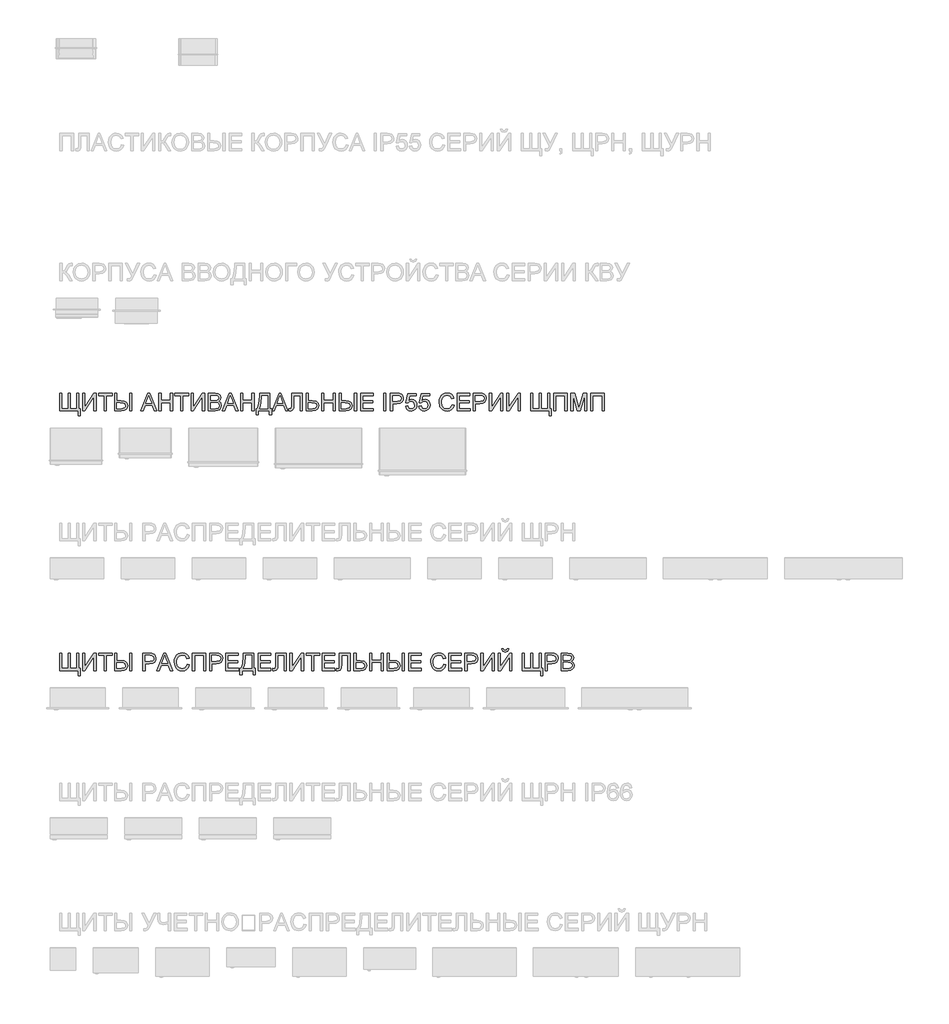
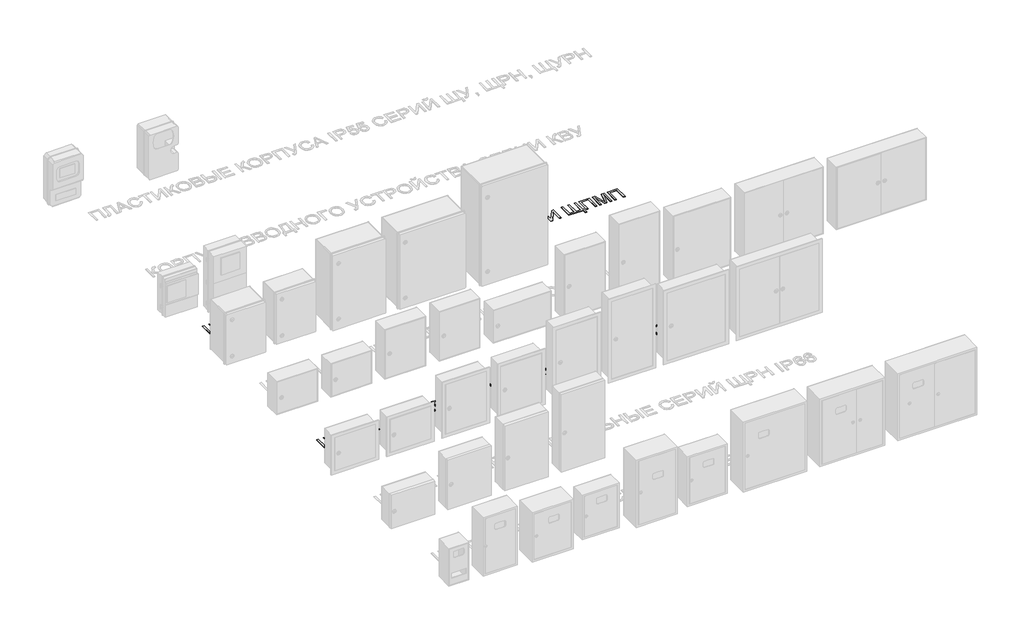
# One storey, part 13 of 25: 2 proxies.
"""IFC4 building model written with IfcOpenShell, lengths in millimetres."""

import ifcopenshell
import ifcopenshell.guid

model = None  # the IFC model being written
_history = None  # IfcOwnerHistory: only IFC2X3 demands one
_inside = {}  # id of a spatial element -> (the spatial element, [elements in it])
_under = {}  # id of a project, library or spatial element -> (it, [spatial elements below it])
_declared = {}  # id of a project -> (the project, [libraries it declares])
_typed = {}  # id of a type object -> (the type object, [elements of that type])
_made_of = {}  # id of a material, layer set ... -> (it, [elements and type objects made of it])


def new_model(schema):
    """Start an empty IFC model of exactly this schema.

    Asked for "IFC4X3", IfcOpenShell would pick the latest addendum, in which some entities
    have other attributes; the version numbers below select the first issue.
    IFC2X3 requires an IfcOwnerHistory on every rooted entity: one is made here for all.
    """
    global model, _history
    if schema == "IFC4X3":
        model = ifcopenshell.file(schema_version=(4, 3, 0, 0))
    else:
        model = ifcopenshell.file(schema=schema)
    _inside.clear()
    _under.clear()
    _declared.clear()
    _typed.clear()
    _made_of.clear()
    _history = None
    if model.schema == "IFC2X3":
        org = make("IfcOrganization", Name="unknown")
        user = make(
            "IfcPersonAndOrganization",
            ThePerson=make("IfcPerson", FamilyName="unknown"),
            TheOrganization=org,
        )
        app = make(
            "IfcApplication",
            ApplicationDeveloper=org,
            Version="unknown",
            ApplicationFullName="unknown",
            ApplicationIdentifier="unknown",
        )
        _history = make(
            "IfcOwnerHistory",
            OwningUser=user,
            OwningApplication=app,
            ChangeAction="ADDED",
            CreationDate=0,
        )
    return model


def make(cls, **values):
    """One entity of the class cls with the attributes given. An attribute that is None is left unset."""
    return model.create_entity(
        cls, **{name: value for name, value in values.items() if value is not None}
    )


def rooted(cls, **values):
    """An entity with a GlobalId (a new one), such as an element, a storey or a relation."""
    return make(cls, GlobalId=ifcopenshell.guid.new(), OwnerHistory=_history, **values)


def si_unit(unit_type, name, prefix=None):
    """IfcSIUnit, for example si_unit("LENGTHUNIT", "METRE", prefix="MILLI")."""
    return make("IfcSIUnit", UnitType=unit_type, Prefix=prefix, Name=name)


def assignment(units):
    """IfcUnitAssignment: the units of a project."""
    return None if units is None else make("IfcUnitAssignment", Units=units)


def point(xyz):
    """IfcCartesianPoint."""
    return None if xyz is None else make("IfcCartesianPoint", Coordinates=xyz)


def direction(xyz):
    """IfcDirection."""
    return None if xyz is None else make("IfcDirection", DirectionRatios=xyz)


def frame(location, z_axis=None, x_axis=None):
    """IfcAxis2Placement3D, a coordinate frame: its origin and axes. An axis left out is left unset."""
    return make(
        "IfcAxis2Placement3D",
        Location=point(location),
        Axis=direction(z_axis),
        RefDirection=direction(x_axis),
    )


def origin():
    """The frame at (0, 0, 0) with its axes left unset."""
    return frame((0.0, 0.0, 0.0))


def place(relative_to, where):
    """IfcLocalPlacement: puts the frame where relative to a parent placement (None: the world)."""
    return make(
        "IfcLocalPlacement", PlacementRelTo=relative_to, RelativePlacement=where
    )


def context(
    kind, dimensions, precision=None, world=None, true_north=None, identifier=None
):
    """IfcGeometricRepresentationContext, for example the 3D "Model" context."""
    return make(
        "IfcGeometricRepresentationContext",
        ContextIdentifier=identifier,
        ContextType=kind,
        CoordinateSpaceDimension=dimensions,
        Precision=precision,
        WorldCoordinateSystem=world,
        TrueNorth=true_north,
    )


def project(units=None, contexts=None):
    """IfcProject with its units and contexts."""
    return rooted(
        "IfcProject",
        Name="project",
        RepresentationContexts=contexts,
        UnitsInContext=assignment(units),
    )


def spatial(cls, under=None, at=None, **own):
    """A site, building, storey or space (cls), placed at a placement, below another one or the project."""
    s = rooted(cls, ObjectPlacement=at, **own)
    if under is not None:
        _under.setdefault(under.id(), (under, []))[1].append(s)
    return s


def polyline(points):
    """IfcPolyline through the points."""
    return make("IfcPolyline", Points=[point(p) for p in points])


def outline(outer, holes=None, kind="AREA"):
    """IfcArbitraryClosedProfileDef: a profile drawn as a closed curve; with holes, ...WithVoids."""
    if holes is None:
        return make("IfcArbitraryClosedProfileDef", ProfileType=kind, OuterCurve=outer)
    return make(
        "IfcArbitraryProfileDefWithVoids",
        ProfileType=kind,
        OuterCurve=outer,
        InnerCurves=holes,
    )


def extrude(swept, where, along, depth):
    """IfcExtrudedAreaSolid: the profile swept, set in the frame where, extruded along a direction by depth."""
    return make(
        "IfcExtrudedAreaSolid",
        SweptArea=swept,
        Position=where,
        ExtrudedDirection=direction(along),
        Depth=depth,
    )


def shape(context_of_items, identifier, shape_type, items):
    """IfcShapeRepresentation: the items that make up one representation, for example the "Body"."""
    return make(
        "IfcShapeRepresentation",
        ContextOfItems=context_of_items,
        RepresentationIdentifier=identifier,
        RepresentationType=shape_type,
        Items=items,
    )


def made_of(thing, what):
    """Note that an element or type object is made of a material, layer set ...; save() writes the relation."""
    if what is not None:
        _made_of.setdefault(what.id(), (what, []))[1].append(thing)
    return thing


def element(
    cls,
    number,
    at=None,
    inside=None,
    cuts=None,
    type_object=None,
    material=None,
    context=None,
    identifier="Body",
    shape_type=None,
    held_by="IfcProductDefinitionShape",
    body=None,
    shapes=None,
    **own,
):
    """One element of the class cls, such as IfcWall. Its Tag is "e" and its number.

    at: its placement. inside: the storey or other place that contains it. cuts: it is an
    opening in that element (IfcRelVoidsElement). A single representation is given by context,
    identifier, shape_type and body (its items); several are given by shapes. held_by: the class
    of the entity that holds the representations. save() writes the other relations.
    """
    e = rooted(cls, Tag="e%d" % number, ObjectPlacement=at, **own)
    if body is not None:
        shapes = [shape(context, identifier, shape_type, body)]
    if shapes is not None:
        e.Representation = make(held_by, Representations=shapes)
    if inside is not None:
        _inside.setdefault(inside.id(), (inside, []))[1].append(e)
    if cuts is not None:
        rooted(
            "IfcRelVoidsElement", RelatingBuildingElement=cuts, RelatedOpeningElement=e
        )
    if type_object is not None:
        _typed.setdefault(type_object.id(), (type_object, []))[1].append(e)
    return made_of(e, material)


def aggregate(whole, parts):
    """IfcRelAggregates: a whole, such as a stair, and the parts it consists of."""
    return rooted("IfcRelAggregates", RelatingObject=whole, RelatedObjects=parts)


def save(model, path):
    """Write the relations noted so far, then the file.

    IfcRelAggregates (storeys below a building ...), IfcRelContainedInSpatialStructure (elements
    in a storey), IfcRelDefinesByType, IfcRelAssociatesMaterial and IfcRelDeclares: one each for
    every whole, place, type object, material and project.
    """
    for whole, parts in _under.values():
        aggregate(whole, parts)
    for where, things in _inside.values():
        rooted(
            "IfcRelContainedInSpatialStructure",
            RelatedElements=things,
            RelatingStructure=where,
        )
    for kind, things in _typed.values():
        rooted("IfcRelDefinesByType", RelatedObjects=things, RelatingType=kind)
    for what, things in _made_of.values():
        rooted("IfcRelAssociatesMaterial", RelatedObjects=things, RelatingMaterial=what)
    for by, libraries in _declared.values():
        rooted("IfcRelDeclares", RelatingContext=by, RelatedDefinitions=libraries)
    model.write(path)


model = new_model("IFC4")

# Units and contexts
model_context = context("Model", 3, world=origin())
ifc_project = project(units=[si_unit("LENGTHUNIT", "METRE", prefix="MILLI")], contexts=[model_context])

# Site, building, storey
site = spatial("IfcSite", under=ifc_project)
building = spatial("IfcBuilding", under=site)
storey = spatial("IfcBuildingStorey", under=building, Name="Этаж 01", Elevation=0.0)

# Proxies
placement = place(None, origin())
element("IfcBuildingElementProxy", 1, Name="Надпись на модели 1", ObjectType="Надпись на модели 1", at=placement, inside=storey, context=model_context, shape_type="SweptSolid", body=[
    extrude(outline(polyline([(-19039.6906686, 10636.6915941), (-19027.1336298, 10636.6915941), (-19027.1336298, 10548.7923228), (-18991.0321433, 10548.7923228), (-18991.0321433, 10636.6915941), (-18978.4751046, 10636.6915941), (-18978.4751046, 10548.7923228), (-18942.3736181, 10548.7923228), (-18942.3736181, 10636.6915941), (-18929.8165793, 10636.6915941), (-18929.8165793, 10548.7923228), (-18920.3988003, 10548.7923228), (-18920.3988003, 10507.9819468), (-18932.955839, 10507.9819468), (-18932.955839, 10536.235284), (-19039.6906686, 10536.235284), (-19039.6906686, 10636.6915941)])), frame((0.0, 0.0, 40.0), z_axis=(0.0, 0.0, 1.0), x_axis=(1.0, 0.0, 0.0)), (0.0, 0.0, 1.0), 2.0),
    extrude(outline(polyline([(-18907.8417615, 10636.6915941), (-18895.2847227, 10636.6915941), (-18895.2847227, 10557.1309813), (-18842.7021229, 10636.6915941), (-18829.3602692, 10636.6915941), (-18829.3602692, 10536.235284), (-18841.917308, 10536.235284), (-18841.917308, 10615.5751676), (-18894.3772805, 10536.235284), (-18907.8417615, 10536.235284), (-18907.8417615, 10636.6915941)])), frame((0.0, 0.0, 40.0), z_axis=(0.0, 0.0, 1.0), x_axis=(1.0, 0.0, 0.0)), (0.0, 0.0, 1.0), 2.0),
    extrude(outline(polyline([(-18782.2713738, 10536.235284), (-18782.2713738, 10624.1345554), (-18815.2336006, 10624.1345554), (-18815.2336006, 10636.6915941), (-18736.7521083, 10636.6915941), (-18736.7521083, 10624.1345554), (-18769.714335, 10624.1345554), (-18769.714335, 10536.235284), (-18782.2713738, 10536.235284)])), frame((0.0, 0.0, 40.0), z_axis=(0.0, 0.0, 1.0), x_axis=(1.0, 0.0, 0.0)), (0.0, 0.0, 1.0), 2.0),
    extrude(outline(polyline([(-18722.6254397, 10636.6915941), (-18710.0684009, 10636.6915941), (-18710.0684009, 10594.3115883), (-18685.935342, 10594.3115883), (-18666.2965748, 10592.1165591), (-18654.7634743, 10585.5314713), (-18649.1532739, 10576.1627432), (-18647.2832071, 10565.6167927), (-18649.2605728, 10554.6017926), (-18655.1926699, 10545.0521891), (-18666.4958443, 10538.4395103), (-18684.5864414, 10536.235284), (-18722.6254397, 10536.235284), (-18722.6254397, 10636.6915941)]), holes=[polyline([(-18710.0684009, 10548.7923228), (-18684.7090687, 10548.7923228), (-18665.7386205, 10552.777711), (-18661.3148395, 10557.9617815), (-18659.8402458, 10565.5432163), (-18663.4087012, 10575.5250811), (-18672.6302765, 10580.6509035), (-18691.5026229, 10581.7545495), (-18710.0684009, 10581.7545495), (-18710.0684009, 10548.7923228)])]), frame((0.0, 0.0, 40.0), z_axis=(0.0, 0.0, 1.0), x_axis=(1.0, 0.0, 0.0)), (0.0, 0.0, 1.0), 2.0),
    extrude(outline(polyline([(-18634.7261683, 10636.6915941), (-18622.1691295, 10636.6915941), (-18622.1691295, 10536.235284), (-18634.7261683, 10536.235284), (-18634.7261683, 10636.6915941)])), frame((0.0, 0.0, 40.0), z_axis=(0.0, 0.0, 1.0), x_axis=(1.0, 0.0, 0.0)), (0.0, 0.0, 1.0), 2.0),
    extrude(outline(polyline([(-18571.0825831, 10536.235284), (-18530.9834456, 10636.6915941), (-18520.2903423, 10636.6915941), (-18480.1912048, 10536.235284), (-18493.4594821, 10536.235284), (-18504.9619259, 10567.6278809), (-18546.3363876, 10567.6278809), (-18557.8143058, 10536.235284), (-18571.0825831, 10536.235284)]), holes=[polyline([(-18541.7255999, 10580.1849197), (-18509.5481881, 10580.1849197), (-18518.5980851, 10604.8820643), (-18525.636894, 10624.1345554), (-18531.8908879, 10607.0403053), (-18541.7255999, 10580.1849197)])]), frame((0.0, 0.0, 40.0), z_axis=(0.0, 0.0, 1.0), x_axis=(1.0, 0.0, 0.0)), (0.0, 0.0, 1.0), 2.0),
    extrude(outline(polyline([(-18466.7757748, 10536.235284), (-18466.7757748, 10636.6915941), (-18454.218736, 10636.6915941), (-18454.218736, 10595.8812181), (-18400.8513212, 10595.8812181), (-18400.8513212, 10636.6915941), (-18388.2942824, 10636.6915941), (-18388.2942824, 10536.235284), (-18400.8513212, 10536.235284), (-18400.8513212, 10583.3241794), (-18454.218736, 10583.3241794), (-18454.218736, 10536.235284), (-18466.7757748, 10536.235284)])), frame((0.0, 0.0, 40.0), z_axis=(0.0, 0.0, 1.0), x_axis=(1.0, 0.0, 0.0)), (0.0, 0.0, 1.0), 2.0),
    extrude(outline(polyline([(-18341.2053871, 10536.235284), (-18341.2053871, 10624.1345554), (-18374.1676138, 10624.1345554), (-18374.1676138, 10636.6915941), (-18295.6861215, 10636.6915941), (-18295.6861215, 10624.1345554), (-18328.6483483, 10624.1345554), (-18328.6483483, 10536.235284), (-18341.2053871, 10536.235284)])), frame((0.0, 0.0, 40.0), z_axis=(0.0, 0.0, 1.0), x_axis=(1.0, 0.0, 0.0)), (0.0, 0.0, 1.0), 2.0),
    extrude(outline(polyline([(-18281.5594529, 10636.6915941), (-18269.0024141, 10636.6915941), (-18269.0024141, 10557.1309813), (-18216.4198143, 10636.6915941), (-18203.0779606, 10636.6915941), (-18203.0779606, 10536.235284), (-18215.6349994, 10536.235284), (-18215.6349994, 10615.5751676), (-18268.0949719, 10536.235284), (-18281.5594529, 10536.235284), (-18281.5594529, 10636.6915941)])), frame((0.0, 0.0, 40.0), z_axis=(0.0, 0.0, 1.0), x_axis=(1.0, 0.0, 0.0)), (0.0, 0.0, 1.0), 2.0),
    extrude(outline(polyline([(-18181.1031428, 10536.235284), (-18181.1031428, 10636.6915941), (-18142.7698389, 10636.6915941), (-18123.9955944, 10633.7362754), (-18112.9100836, 10624.6495902), (-18108.9001698, 10611.7982458), (-18112.2724215, 10600.0628102), (-18122.4627527, 10591.1723286), (-18110.089655, 10581.8036005), (-18105.7609102, 10566.1808784), (-18108.7162288, 10552.6796092), (-18116.0370806, 10543.0656264), (-18126.9631758, 10537.9643294), (-18143.0641445, 10536.235284), (-18181.1031428, 10536.235284)]), holes=[polyline([(-18168.546104, 10548.7923228), (-18142.7943643, 10548.7923228), (-18133.4746871, 10549.2828321), (-18125.5897497, 10552.0174216), (-18120.3658254, 10557.5969652), (-18118.3179489, 10566.0582511), (-18120.7214446, 10575.8193867), (-18128.5082802, 10581.6441849), (-18144.0206377, 10583.3241794), (-18168.546104, 10583.3241794), (-18168.546104, 10548.7923228)]), polyline([(-18168.546104, 10595.8812181), (-18145.614793, 10595.8812181), (-18132.2238883, 10596.9603387), (-18124.1672726, 10601.6079145), (-18121.4572086, 10609.7871576), (-18123.9833316, 10617.9786633), (-18131.2183442, 10622.8224429), (-18147.3561011, 10624.1345554), (-18168.546104, 10624.1345554), (-18168.546104, 10595.8812181)])]), frame((0.0, 0.0, 40.0), z_axis=(0.0, 0.0, 1.0), x_axis=(1.0, 0.0, 0.0)), (0.0, 0.0, 1.0), 2.0),
    extrude(outline(polyline([(-18100.1936293, 10536.235284), (-18060.0944918, 10636.6915941), (-18049.4013885, 10636.6915941), (-18009.302251, 10536.235284), (-18022.5705283, 10536.235284), (-18034.072972, 10567.6278809), (-18075.4474337, 10567.6278809), (-18086.925352, 10536.235284), (-18100.1936293, 10536.235284)]), holes=[polyline([(-18070.8366461, 10580.1849197), (-18038.6592342, 10580.1849197), (-18047.7091313, 10604.8820643), (-18054.7479402, 10624.1345554), (-18061.0019341, 10607.0403053), (-18070.8366461, 10580.1849197)])]), frame((0.0, 0.0, 40.0), z_axis=(0.0, 0.0, 1.0), x_axis=(1.0, 0.0, 0.0)), (0.0, 0.0, 1.0), 2.0),
    extrude(outline(polyline([(-17995.8868209, 10536.235284), (-17995.8868209, 10636.6915941), (-17983.3297822, 10636.6915941), (-17983.3297822, 10595.8812181), (-17929.9623674, 10595.8812181), (-17929.9623674, 10636.6915941), (-17917.4053286, 10636.6915941), (-17917.4053286, 10536.235284), (-17929.9623674, 10536.235284), (-17929.9623674, 10583.3241794), (-17983.3297822, 10583.3241794), (-17983.3297822, 10536.235284), (-17995.8868209, 10536.235284)])), frame((0.0, 0.0, 40.0), z_axis=(0.0, 0.0, 1.0), x_axis=(1.0, 0.0, 0.0)), (0.0, 0.0, 1.0), 2.0),
    extrude(outline(polyline([(-17886.0127317, 10636.6915941), (-17826.3667975, 10636.6915941), (-17826.3667975, 10548.7923228), (-17816.9490185, 10548.7923228), (-17816.9490185, 10512.6908363), (-17829.5060572, 10512.6908363), (-17829.5060572, 10536.235284), (-17893.8608809, 10536.235284), (-17893.8608809, 10512.6908363), (-17906.4179197, 10512.6908363), (-17906.4179197, 10548.7923228), (-17898.5697705, 10548.7923228), (-17889.1519914, 10576.2056628), (-17886.0127317, 10622.1479926), (-17886.0127317, 10636.6915941)]), holes=[polyline([(-17838.9238363, 10624.1345554), (-17873.4556929, 10624.1345554), (-17873.4556929, 10619.0823093), (-17876.0063414, 10584.67308), (-17879.7832632, 10564.7890582), (-17886.0127317, 10548.7923228), (-17838.9238363, 10548.7923228), (-17838.9238363, 10624.1345554)])]), frame((0.0, 0.0, 40.0), z_axis=(0.0, 0.0, 1.0), x_axis=(1.0, 0.0, 0.0)), (0.0, 0.0, 1.0), 2.0),
    extrude(outline(polyline([(-17812.9513675, 10536.235284), (-17772.85223, 10636.6915941), (-17762.1591267, 10636.6915941), (-17722.0599892, 10536.235284), (-17735.3282665, 10536.235284), (-17746.8307102, 10567.6278809), (-17788.2051719, 10567.6278809), (-17799.6830902, 10536.235284), (-17812.9513675, 10536.235284)]), holes=[polyline([(-17783.5943842, 10580.1849197), (-17751.4169724, 10580.1849197), (-17760.4668695, 10604.8820643), (-17767.5056783, 10624.1345554), (-17773.7596722, 10607.0403053), (-17783.5943842, 10580.1849197)])]), frame((0.0, 0.0, 40.0), z_axis=(0.0, 0.0, 1.0), x_axis=(1.0, 0.0, 0.0)), (0.0, 0.0, 1.0), 2.0),
    extrude(outline(polyline([(-17700.7964099, 10636.6915941), (-17639.5808459, 10636.6915941), (-17639.5808459, 10536.235284), (-17652.1378846, 10536.235284), (-17652.1378846, 10624.1345554), (-17688.2393711, 10624.1345554), (-17688.2393711, 10572.8763307), (-17689.6986363, 10550.0063333), (-17695.8177402, 10538.7000934), (-17707.639015, 10534.6656541), (-17718.0623382, 10536.235284), (-17716.4927083, 10548.7923228), (-17710.4839691, 10547.2226929), (-17703.2121683, 10550.5949445), (-17700.7964099, 10566.475184), (-17700.7964099, 10636.6915941)])), frame((0.0, 0.0, 40.0), z_axis=(0.0, 0.0, 1.0), x_axis=(1.0, 0.0, 0.0)), (0.0, 0.0, 1.0), 2.0),
    extrude(outline(polyline([(-17617.606028, 10636.6915941), (-17605.0489892, 10636.6915941), (-17605.0489892, 10594.3115883), (-17581.529067, 10594.3115883), (-17557.678051, 10590.375251), (-17547.0585241, 10579.6576222), (-17543.8334253, 10565.6903691), (-17545.7709371, 10554.666172), (-17551.5834726, 10545.0889773), (-17562.6689834, 10538.4487073), (-17580.425421, 10536.235284), (-17617.606028, 10536.235284), (-17617.606028, 10636.6915941)]), holes=[polyline([(-17605.0489892, 10548.7923228), (-17580.4499465, 10548.7923228), (-17568.0768487, 10550.0339245), (-17560.9276753, 10553.7587297), (-17556.390464, 10565.73942), (-17559.6768765, 10575.4269792), (-17568.4447307, 10580.5895899), (-17587.0227715, 10581.7545495), (-17605.0489892, 10581.7545495), (-17605.0489892, 10548.7923228)])]), frame((0.0, 0.0, 40.0), z_axis=(0.0, 0.0, 1.0), x_axis=(1.0, 0.0, 0.0)), (0.0, 0.0, 1.0), 2.0),
    extrude(outline(polyline([(-17526.5674969, 10536.235284), (-17526.5674969, 10636.6915941), (-17514.0104582, 10636.6915941), (-17514.0104582, 10595.8812181), (-17460.6430434, 10595.8812181), (-17460.6430434, 10636.6915941), (-17448.0860046, 10636.6915941), (-17448.0860046, 10536.235284), (-17460.6430434, 10536.235284), (-17460.6430434, 10583.3241794), (-17514.0104582, 10583.3241794), (-17514.0104582, 10536.235284), (-17526.5674969, 10536.235284)])), frame((0.0, 0.0, 40.0), z_axis=(0.0, 0.0, 1.0), x_axis=(1.0, 0.0, 0.0)), (0.0, 0.0, 1.0), 2.0),
    extrude(outline(polyline([(-17426.1111868, 10636.6915941), (-17413.554148, 10636.6915941), (-17413.554148, 10594.3115883), (-17389.4210891, 10594.3115883), (-17369.782322, 10592.1165591), (-17358.2492214, 10585.5314713), (-17352.639021, 10576.1627432), (-17350.7689542, 10565.6167927), (-17352.7463199, 10554.6017926), (-17358.6784171, 10545.0521891), (-17369.9815914, 10538.4395103), (-17388.0721885, 10536.235284), (-17426.1111868, 10536.235284), (-17426.1111868, 10636.6915941)]), holes=[polyline([(-17413.554148, 10548.7923228), (-17388.1948158, 10548.7923228), (-17369.2243676, 10552.777711), (-17364.8005866, 10557.9617815), (-17363.325993, 10565.5432163), (-17366.8944483, 10575.5250811), (-17376.1160237, 10580.6509035), (-17394.98837, 10581.7545495), (-17413.554148, 10581.7545495), (-17413.554148, 10548.7923228)])]), frame((0.0, 0.0, 40.0), z_axis=(0.0, 0.0, 1.0), x_axis=(1.0, 0.0, 0.0)), (0.0, 0.0, 1.0), 2.0),
    extrude(outline(polyline([(-17338.2119154, 10636.6915941), (-17325.6548766, 10636.6915941), (-17325.6548766, 10536.235284), (-17338.2119154, 10536.235284), (-17338.2119154, 10636.6915941)])), frame((0.0, 0.0, 40.0), z_axis=(0.0, 0.0, 1.0), x_axis=(1.0, 0.0, 0.0)), (0.0, 0.0, 1.0), 2.0),
    extrude(outline(polyline([(-17302.110429, 10536.235284), (-17302.110429, 10636.6915941), (-17229.907456, 10636.6915941), (-17229.907456, 10624.1345554), (-17289.5533902, 10624.1345554), (-17289.5533902, 10594.3115883), (-17233.0467157, 10594.3115883), (-17233.0467157, 10581.7545495), (-17289.5533902, 10581.7545495), (-17289.5533902, 10548.7923228), (-17228.3378262, 10548.7923228), (-17228.3378262, 10536.235284), (-17302.110429, 10536.235284)])), frame((0.0, 0.0, 40.0), z_axis=(0.0, 0.0, 1.0), x_axis=(1.0, 0.0, 0.0)), (0.0, 0.0, 1.0), 2.0),
    extrude(outline(polyline([(-17168.691892, 10536.235284), (-17168.691892, 10636.6915941), (-17156.1348533, 10636.6915941), (-17156.1348533, 10536.235284), (-17168.691892, 10536.235284)])), frame((0.0, 0.0, 40.0), z_axis=(0.0, 0.0, 1.0), x_axis=(1.0, 0.0, 0.0)), (0.0, 0.0, 1.0), 2.0),
    extrude(outline(polyline([(-17131.0207757, 10536.235284), (-17131.0207757, 10636.6915941), (-17093.7911178, 10636.6915941), (-17078.7815324, 10635.735101), (-17066.5801129, 10631.0384742), (-17058.67065, 10621.3263895), (-17055.6785431, 10607.6289165), (-17057.6988284, 10595.7892476), (-17063.7596843, 10585.9238788), (-17075.0935154, 10579.2652147), (-17092.9327265, 10577.04566), (-17118.463737, 10577.04566), (-17118.463737, 10536.235284), (-17131.0207757, 10536.235284)]), holes=[polyline([(-17118.463737, 10589.6026988), (-17092.1969625, 10589.6026988), (-17073.7047609, 10594.2134864), (-17069.6028766, 10599.7623732), (-17068.2355819, 10607.1874581), (-17071.4606807, 10617.5862559), (-17079.9342293, 10623.2761641), (-17092.4912681, 10624.1345554), (-17118.463737, 10624.1345554), (-17118.463737, 10589.6026988)])]), frame((0.0, 0.0, 40.0), z_axis=(0.0, 0.0, 1.0), x_axis=(1.0, 0.0, 0.0)), (0.0, 0.0, 1.0), 2.0),
    extrude(outline(polyline([(-17043.1215044, 10562.9189914), (-17030.5644656, 10564.4886212), (-17024.2368953, 10551.5514377), (-17011.1157708, 10547.2226929), (-17002.1149246, 10548.7279434), (-16995.3704214, 10553.2436949), (-16991.1581725, 10560.2487812), (-16989.7540896, 10569.2220362), (-16995.0148021, 10584.1335198), (-17001.6213496, 10588.235404), (-17010.919567, 10589.6026988), (-17021.9437642, 10587.4199323), (-17028.9948357, 10581.7545495), (-17041.5518745, 10583.3241794), (-17030.5644656, 10635.1219643), (-16981.9059404, 10635.1219643), (-16981.9059404, 10622.5649255), (-17020.4109225, 10622.5649255), (-17025.7819996, 10594.9001995), (-17016.8118103, 10600.344853), (-17007.4124254, 10602.1597375), (-16995.6800554, 10599.909526), (-16985.9403796, 10593.1588914), (-16979.382883, 10582.8704582), (-16977.1970508, 10570.0068512), (-16979.1652195, 10557.4498124), (-16985.0697255, 10546.7076581), (-16996.3759655, 10537.6761551), (-17011.1648217, 10534.6656541), (-17023.4980656, 10536.6001003), (-17033.3235805, 10542.4034388), (-17040.0588867, 10551.4012192), (-17043.1215044, 10562.9189914)])), frame((0.0, 0.0, 40.0), z_axis=(0.0, 0.0, 1.0), x_axis=(1.0, 0.0, 0.0)), (0.0, 0.0, 1.0), 2.0),
    extrude(outline(polyline([(-16966.2096419, 10562.9189914), (-16953.6526031, 10564.4886212), (-16947.3250328, 10551.5514377), (-16934.2039083, 10547.2226929), (-16925.2030622, 10548.7279434), (-16918.4585589, 10553.2436949), (-16914.2463101, 10560.2487812), (-16912.8422271, 10569.2220362), (-16918.1029397, 10584.1335198), (-16924.7094872, 10588.235404), (-16934.0077046, 10589.6026988), (-16945.0319017, 10587.4199323), (-16952.0829733, 10581.7545495), (-16964.640012, 10583.3241794), (-16953.6526031, 10635.1219643), (-16904.9940779, 10635.1219643), (-16904.9940779, 10622.5649255), (-16943.4990601, 10622.5649255), (-16948.8701372, 10594.9001995), (-16939.8999479, 10600.344853), (-16930.5005629, 10602.1597375), (-16918.7681929, 10599.909526), (-16909.0285171, 10593.1588914), (-16902.4710205, 10582.8704582), (-16900.2851884, 10570.0068512), (-16902.253357, 10557.4498124), (-16908.1578631, 10546.7076581), (-16919.464103, 10537.6761551), (-16934.2529592, 10534.6656541), (-16946.5862031, 10536.6001003), (-16956.4117181, 10542.4034388), (-16963.1470243, 10551.4012192), (-16966.2096419, 10562.9189914)])), frame((0.0, 0.0, 40.0), z_axis=(0.0, 0.0, 1.0), x_axis=(1.0, 0.0, 0.0)), (0.0, 0.0, 1.0), 2.0),
    extrude(outline(polyline([(-16774.7148007, 10571.944363), (-16762.1577619, 10568.7070014), (-16767.9519033, 10554.0744951), (-16777.04472, 10543.3844574), (-16788.9886221, 10536.845355), (-16803.3360199, 10534.6656541), (-16817.9010812, 10536.3149918), (-16829.4679043, 10541.2630046), (-16838.3338604, 10549.3380144), (-16844.7963208, 10560.3683429), (-16850.0570333, 10587.2237285), (-16848.5701769, 10601.8715633), (-16844.1096077, 10614.5205726), (-16836.9083176, 10624.7691518), (-16827.1992986, 10632.2156965), (-16815.6845922, 10636.7498421), (-16803.0662398, 10638.261224), (-16789.2982561, 10636.305318), (-16777.915374, 10630.4376002), (-16769.2732128, 10621.0198211), (-16763.7273917, 10608.4137314), (-16776.2844305, 10605.4216246), (-16786.5851264, 10620.8604056), (-16803.5567491, 10625.7041852), (-16823.2016476, 10620.3331081), (-16834.2994212, 10605.9121339), (-16837.4999945, 10587.248254), (-16833.71081, 10565.6167927), (-16821.9140607, 10551.7966924), (-16804.5868187, 10547.2226929), (-16794.1052475, 10548.78006), (-16785.3711158, 10553.4521614), (-16778.776831, 10561.189946), (-16774.7148007, 10571.944363)])), frame((0.0, 0.0, 40.0), z_axis=(0.0, 0.0, 1.0), x_axis=(1.0, 0.0, 0.0)), (0.0, 0.0, 1.0), 2.0),
    extrude(outline(polyline([(-16744.8918336, 10536.235284), (-16744.8918336, 10636.6915941), (-16672.6888607, 10636.6915941), (-16672.6888607, 10624.1345554), (-16732.3347948, 10624.1345554), (-16732.3347948, 10594.3115883), (-16675.8281204, 10594.3115883), (-16675.8281204, 10581.7545495), (-16732.3347948, 10581.7545495), (-16732.3347948, 10548.7923228), (-16671.1192308, 10548.7923228), (-16671.1192308, 10536.235284), (-16744.8918336, 10536.235284)])), frame((0.0, 0.0, 40.0), z_axis=(0.0, 0.0, 1.0), x_axis=(1.0, 0.0, 0.0)), (0.0, 0.0, 1.0), 2.0),
    extrude(outline(polyline([(-16652.2836727, 10536.235284), (-16652.2836727, 10636.6915941), (-16615.0540148, 10636.6915941), (-16600.0444294, 10635.735101), (-16587.8430099, 10631.0384742), (-16579.933547, 10621.3263895), (-16576.9414401, 10607.6289165), (-16578.9617254, 10595.7892476), (-16585.0225812, 10585.9238788), (-16596.3564124, 10579.2652147), (-16614.1956234, 10577.04566), (-16639.7266339, 10577.04566), (-16639.7266339, 10536.235284), (-16652.2836727, 10536.235284)]), holes=[polyline([(-16639.7266339, 10589.6026988), (-16613.4598595, 10589.6026988), (-16594.9676578, 10594.2134864), (-16590.8657736, 10599.7623732), (-16589.4984788, 10607.1874581), (-16592.7235777, 10617.5862559), (-16601.1971263, 10623.2761641), (-16613.754165, 10624.1345554), (-16639.7266339, 10624.1345554), (-16639.7266339, 10589.6026988)])]), frame((0.0, 0.0, 40.0), z_axis=(0.0, 0.0, 1.0), x_axis=(1.0, 0.0, 0.0)), (0.0, 0.0, 1.0), 2.0),
    extrude(outline(polyline([(-16559.6755118, 10636.6915941), (-16547.118473, 10636.6915941), (-16547.118473, 10557.1309813), (-16494.5358731, 10636.6915941), (-16481.1940195, 10636.6915941), (-16481.1940195, 10536.235284), (-16493.7510582, 10536.235284), (-16493.7510582, 10615.5751676), (-16546.2110307, 10536.235284), (-16559.6755118, 10536.235284), (-16559.6755118, 10636.6915941)])), frame((0.0, 0.0, 40.0), z_axis=(0.0, 0.0, 1.0), x_axis=(1.0, 0.0, 0.0)), (0.0, 0.0, 1.0), 2.0),
    extrude(outline(polyline([(-16459.2192016, 10636.6915941), (-16446.6621628, 10636.6915941), (-16446.6621628, 10557.1309813), (-16394.079563, 10636.6915941), (-16380.7377093, 10636.6915941), (-16380.7377093, 10536.235284), (-16393.2947481, 10536.235284), (-16393.2947481, 10615.5751676), (-16445.7547206, 10536.235284), (-16459.2192016, 10536.235284), (-16459.2192016, 10636.6915941)])), frame((0.0, 0.0, 40.0), z_axis=(0.0, 0.0, 1.0), x_axis=(1.0, 0.0, 0.0)), (0.0, 0.0, 1.0), 2.0),
    extrude(outline(polyline([(-16321.0917752, 10636.6915941), (-16308.5347364, 10636.6915941), (-16308.5347364, 10548.7923228), (-16272.4332499, 10548.7923228), (-16272.4332499, 10636.6915941), (-16259.8762112, 10636.6915941), (-16259.8762112, 10548.7923228), (-16223.7747247, 10548.7923228), (-16223.7747247, 10636.6915941), (-16211.2176859, 10636.6915941), (-16211.2176859, 10548.7923228), (-16201.7999068, 10548.7923228), (-16201.7999068, 10507.9819468), (-16214.3569456, 10507.9819468), (-16214.3569456, 10536.235284), (-16321.0917752, 10536.235284), (-16321.0917752, 10636.6915941)])), frame((0.0, 0.0, 40.0), z_axis=(0.0, 0.0, 1.0), x_axis=(1.0, 0.0, 0.0)), (0.0, 0.0, 1.0), 2.0),
    extrude(outline(polyline([(-16189.2428681, 10636.6915941), (-16110.7613758, 10636.6915941), (-16110.7613758, 10536.235284), (-16123.3184145, 10536.235284), (-16123.3184145, 10624.1345554), (-16176.6858293, 10624.1345554), (-16176.6858293, 10536.235284), (-16189.2428681, 10536.235284), (-16189.2428681, 10636.6915941)])), frame((0.0, 0.0, 40.0), z_axis=(0.0, 0.0, 1.0), x_axis=(1.0, 0.0, 0.0)), (0.0, 0.0, 1.0), 2.0),
    extrude(outline(polyline([(-16088.7865579, 10536.235284), (-16088.7865579, 10636.6915941), (-16067.1796221, 10636.6915941), (-16046.6272813, 10565.8865728), (-16042.4824775, 10551.0977166), (-16037.9943171, 10567.1128461), (-16017.7853329, 10636.6915941), (-15996.178397, 10636.6915941), (-15996.178397, 10536.235284), (-16008.7354358, 10536.235284), (-16008.7354358, 10624.1345554), (-16033.9721406, 10536.235284), (-16050.9928143, 10536.235284), (-16076.2295192, 10624.1345554), (-16076.2295192, 10536.235284), (-16088.7865579, 10536.235284)])), frame((0.0, 0.0, 40.0), z_axis=(0.0, 0.0, 1.0), x_axis=(1.0, 0.0, 0.0)), (0.0, 0.0, 1.0), 2.0),
    extrude(outline(polyline([(-15974.2035792, 10636.6915941), (-15895.7220869, 10636.6915941), (-15895.7220869, 10536.235284), (-15908.2791256, 10536.235284), (-15908.2791256, 10624.1345554), (-15961.6465404, 10624.1345554), (-15961.6465404, 10536.235284), (-15974.2035792, 10536.235284), (-15974.2035792, 10636.6915941)])), frame((0.0, 0.0, 40.0), z_axis=(0.0, 0.0, 1.0), x_axis=(1.0, 0.0, 0.0)), (0.0, 0.0, 1.0), 2.0),
])
element("IfcBuildingElementProxy", 2, Name="Надпись на модели 1", ObjectType="Надпись на модели 1", at=placement, inside=storey, context=model_context, shape_type="SweptSolid", body=[
    extrude(outline(polyline([(-19039.6906686, 9136.6915941), (-19027.1336298, 9136.6915941), (-19027.1336298, 9048.7923228), (-18991.0321433, 9048.7923228), (-18991.0321433, 9136.6915941), (-18978.4751046, 9136.6915941), (-18978.4751046, 9048.7923228), (-18942.3736181, 9048.7923228), (-18942.3736181, 9136.6915941), (-18929.8165793, 9136.6915941), (-18929.8165793, 9048.7923228), (-18920.3988003, 9048.7923228), (-18920.3988003, 9007.9819468), (-18932.955839, 9007.9819468), (-18932.955839, 9036.235284), (-19039.6906686, 9036.235284), (-19039.6906686, 9136.6915941)])), frame((0.0, 0.0, 40.0), z_axis=(0.0, 0.0, 1.0), x_axis=(1.0, 0.0, 0.0)), (0.0, 0.0, 1.0), 2.0),
    extrude(outline(polyline([(-18907.8417615, 9136.6915941), (-18895.2847227, 9136.6915941), (-18895.2847227, 9057.1309813), (-18842.7021229, 9136.6915941), (-18829.3602692, 9136.6915941), (-18829.3602692, 9036.235284), (-18841.917308, 9036.235284), (-18841.917308, 9115.5751676), (-18894.3772805, 9036.235284), (-18907.8417615, 9036.235284), (-18907.8417615, 9136.6915941)])), frame((0.0, 0.0, 40.0), z_axis=(0.0, 0.0, 1.0), x_axis=(1.0, 0.0, 0.0)), (0.0, 0.0, 1.0), 2.0),
    extrude(outline(polyline([(-18782.2713738, 9036.235284), (-18782.2713738, 9124.1345554), (-18815.2336006, 9124.1345554), (-18815.2336006, 9136.6915941), (-18736.7521083, 9136.6915941), (-18736.7521083, 9124.1345554), (-18769.714335, 9124.1345554), (-18769.714335, 9036.235284), (-18782.2713738, 9036.235284)])), frame((0.0, 0.0, 40.0), z_axis=(0.0, 0.0, 1.0), x_axis=(1.0, 0.0, 0.0)), (0.0, 0.0, 1.0), 2.0),
    extrude(outline(polyline([(-18722.6254397, 9136.6915941), (-18710.0684009, 9136.6915941), (-18710.0684009, 9094.3115883), (-18685.935342, 9094.3115883), (-18666.2965748, 9092.1165591), (-18654.7634743, 9085.5314713), (-18649.1532739, 9076.1627432), (-18647.2832071, 9065.6167927), (-18649.2605728, 9054.6017926), (-18655.1926699, 9045.0521891), (-18666.4958443, 9038.4395103), (-18684.5864414, 9036.235284), (-18722.6254397, 9036.235284), (-18722.6254397, 9136.6915941)]), holes=[polyline([(-18710.0684009, 9048.7923228), (-18684.7090687, 9048.7923228), (-18665.7386205, 9052.777711), (-18661.3148395, 9057.9617815), (-18659.8402458, 9065.5432163), (-18663.4087012, 9075.5250811), (-18672.6302765, 9080.6509035), (-18691.5026229, 9081.7545495), (-18710.0684009, 9081.7545495), (-18710.0684009, 9048.7923228)])]), frame((0.0, 0.0, 40.0), z_axis=(0.0, 0.0, 1.0), x_axis=(1.0, 0.0, 0.0)), (0.0, 0.0, 1.0), 2.0),
    extrude(outline(polyline([(-18634.7261683, 9136.6915941), (-18622.1691295, 9136.6915941), (-18622.1691295, 9036.235284), (-18634.7261683, 9036.235284), (-18634.7261683, 9136.6915941)])), frame((0.0, 0.0, 40.0), z_axis=(0.0, 0.0, 1.0), x_axis=(1.0, 0.0, 0.0)), (0.0, 0.0, 1.0), 2.0),
    extrude(outline(polyline([(-18559.3839357, 9036.235284), (-18559.3839357, 9136.6915941), (-18522.1542778, 9136.6915941), (-18507.1446924, 9135.735101), (-18494.9432728, 9131.0384742), (-18487.03381, 9121.3263895), (-18484.0417031, 9107.6289165), (-18486.0619883, 9095.7892476), (-18492.1228442, 9085.9238788), (-18503.4566754, 9079.2652147), (-18521.2958864, 9077.04566), (-18546.8268969, 9077.04566), (-18546.8268969, 9036.235284), (-18559.3839357, 9036.235284)]), holes=[polyline([(-18546.8268969, 9089.6026988), (-18520.5601224, 9089.6026988), (-18502.0679208, 9094.2134864), (-18497.9660366, 9099.7623732), (-18496.5987418, 9107.1874581), (-18499.8238407, 9117.5862559), (-18508.2973893, 9123.2761641), (-18520.854428, 9124.1345554), (-18546.8268969, 9124.1345554), (-18546.8268969, 9089.6026988)])]), frame((0.0, 0.0, 40.0), z_axis=(0.0, 0.0, 1.0), x_axis=(1.0, 0.0, 0.0)), (0.0, 0.0, 1.0), 2.0),
    extrude(outline(polyline([(-18478.4744222, 9036.235284), (-18438.3752847, 9136.6915941), (-18427.6821814, 9136.6915941), (-18387.5830439, 9036.235284), (-18400.8513212, 9036.235284), (-18412.3537649, 9067.6278809), (-18453.7282267, 9067.6278809), (-18465.2061449, 9036.235284), (-18478.4744222, 9036.235284)]), holes=[polyline([(-18449.117439, 9080.1849197), (-18416.9400271, 9080.1849197), (-18425.9899242, 9104.8820643), (-18433.0287331, 9124.1345554), (-18439.282727, 9107.0403053), (-18449.117439, 9080.1849197)])]), frame((0.0, 0.0, 40.0), z_axis=(0.0, 0.0, 1.0), x_axis=(1.0, 0.0, 0.0)), (0.0, 0.0, 1.0), 2.0),
    extrude(outline(polyline([(-18303.5342708, 9071.944363), (-18290.977232, 9068.7070014), (-18296.7713734, 9054.0744951), (-18305.8641901, 9043.3844574), (-18317.8080922, 9036.845355), (-18332.15549, 9034.6656541), (-18346.7205513, 9036.3149918), (-18358.2873744, 9041.2630046), (-18367.1533305, 9049.3380144), (-18373.6157908, 9060.3683429), (-18378.8765034, 9087.2237285), (-18377.389647, 9101.8715633), (-18372.9290778, 9114.5205726), (-18365.7277877, 9124.7691518), (-18356.0187687, 9132.2156965), (-18344.5040623, 9136.7498421), (-18331.8857099, 9138.261224), (-18318.1177262, 9136.305318), (-18306.7348441, 9130.4376002), (-18298.0926829, 9121.0198211), (-18292.5468618, 9108.4137314), (-18305.1039006, 9105.4216246), (-18315.4045965, 9120.8604056), (-18332.3762192, 9125.7041852), (-18352.0211177, 9120.3331081), (-18363.1188912, 9105.9121339), (-18366.3194646, 9087.248254), (-18362.5302801, 9065.6167927), (-18350.7335307, 9051.7966924), (-18333.4062888, 9047.2226929), (-18322.9247176, 9048.78006), (-18314.1905859, 9053.4521614), (-18307.5963011, 9061.189946), (-18303.5342708, 9071.944363)])), frame((0.0, 0.0, 40.0), z_axis=(0.0, 0.0, 1.0), x_axis=(1.0, 0.0, 0.0)), (0.0, 0.0, 1.0), 2.0),
    extrude(outline(polyline([(-18273.7113037, 9136.6915941), (-18195.2298114, 9136.6915941), (-18195.2298114, 9036.235284), (-18207.7868501, 9036.235284), (-18207.7868501, 9124.1345554), (-18261.1542649, 9124.1345554), (-18261.1542649, 9036.235284), (-18273.7113037, 9036.235284), (-18273.7113037, 9136.6915941)])), frame((0.0, 0.0, 40.0), z_axis=(0.0, 0.0, 1.0), x_axis=(1.0, 0.0, 0.0)), (0.0, 0.0, 1.0), 2.0),
    extrude(outline(polyline([(-18173.2549935, 9036.235284), (-18173.2549935, 9136.6915941), (-18136.0253356, 9136.6915941), (-18121.0157502, 9135.735101), (-18108.8143307, 9131.0384742), (-18100.9048678, 9121.3263895), (-18097.9127609, 9107.6289165), (-18099.9330462, 9095.7892476), (-18105.9939021, 9085.9238788), (-18117.3277332, 9079.2652147), (-18135.1669443, 9077.04566), (-18160.6979548, 9077.04566), (-18160.6979548, 9036.235284), (-18173.2549935, 9036.235284)]), holes=[polyline([(-18160.6979548, 9089.6026988), (-18134.4311803, 9089.6026988), (-18115.9389787, 9094.2134864), (-18111.8370944, 9099.7623732), (-18110.4697997, 9107.1874581), (-18113.6948985, 9117.5862559), (-18122.1684471, 9123.2761641), (-18134.7254859, 9124.1345554), (-18160.6979548, 9124.1345554), (-18160.6979548, 9089.6026988)])]), frame((0.0, 0.0, 40.0), z_axis=(0.0, 0.0, 1.0), x_axis=(1.0, 0.0, 0.0)), (0.0, 0.0, 1.0), 2.0),
    extrude(outline(polyline([(-18080.6468326, 9036.235284), (-18080.6468326, 9136.6915941), (-18008.4438597, 9136.6915941), (-18008.4438597, 9124.1345554), (-18068.0897938, 9124.1345554), (-18068.0897938, 9094.3115883), (-18011.5831194, 9094.3115883), (-18011.5831194, 9081.7545495), (-18068.0897938, 9081.7545495), (-18068.0897938, 9048.7923228), (-18006.8742298, 9048.7923228), (-18006.8742298, 9036.235284), (-18080.6468326, 9036.235284)])), frame((0.0, 0.0, 40.0), z_axis=(0.0, 0.0, 1.0), x_axis=(1.0, 0.0, 0.0)), (0.0, 0.0, 1.0), 2.0),
    extrude(outline(polyline([(-17978.6208926, 9136.6915941), (-17918.9749585, 9136.6915941), (-17918.9749585, 9048.7923228), (-17909.5571794, 9048.7923228), (-17909.5571794, 9012.6908363), (-17922.1142182, 9012.6908363), (-17922.1142182, 9036.235284), (-17986.4690418, 9036.235284), (-17986.4690418, 9012.6908363), (-17999.0260806, 9012.6908363), (-17999.0260806, 9048.7923228), (-17991.1779314, 9048.7923228), (-17981.7601523, 9076.2056628), (-17978.6208926, 9122.1479926), (-17978.6208926, 9136.6915941)]), holes=[polyline([(-17931.5319972, 9124.1345554), (-17966.0638538, 9124.1345554), (-17966.0638538, 9119.0823093), (-17968.6145023, 9084.67308), (-17972.3914242, 9064.7890582), (-17978.6208926, 9048.7923228), (-17931.5319972, 9048.7923228), (-17931.5319972, 9124.1345554)])]), frame((0.0, 0.0, 40.0), z_axis=(0.0, 0.0, 1.0), x_axis=(1.0, 0.0, 0.0)), (0.0, 0.0, 1.0), 2.0),
    extrude(outline(polyline([(-17893.8608809, 9036.235284), (-17893.8608809, 9136.6915941), (-17821.657908, 9136.6915941), (-17821.657908, 9124.1345554), (-17881.3038422, 9124.1345554), (-17881.3038422, 9094.3115883), (-17824.7971677, 9094.3115883), (-17824.7971677, 9081.7545495), (-17881.3038422, 9081.7545495), (-17881.3038422, 9048.7923228), (-17820.0882782, 9048.7923228), (-17820.0882782, 9036.235284), (-17893.8608809, 9036.235284)])), frame((0.0, 0.0, 40.0), z_axis=(0.0, 0.0, 1.0), x_axis=(1.0, 0.0, 0.0)), (0.0, 0.0, 1.0), 2.0),
    extrude(outline(polyline([(-17793.4045708, 9136.6915941), (-17732.1890068, 9136.6915941), (-17732.1890068, 9036.235284), (-17744.7460456, 9036.235284), (-17744.7460456, 9124.1345554), (-17780.847532, 9124.1345554), (-17780.847532, 9072.8763307), (-17782.3067973, 9050.0063333), (-17788.4259011, 9038.7000934), (-17800.2471759, 9034.6656541), (-17810.6704991, 9036.235284), (-17809.1008692, 9048.7923228), (-17803.09213, 9047.2226929), (-17795.8203292, 9050.5949445), (-17793.4045708, 9066.475184), (-17793.4045708, 9136.6915941)])), frame((0.0, 0.0, 40.0), z_axis=(0.0, 0.0, 1.0), x_axis=(1.0, 0.0, 0.0)), (0.0, 0.0, 1.0), 2.0),
    extrude(outline(polyline([(-17710.2141889, 9136.6915941), (-17697.6571502, 9136.6915941), (-17697.6571502, 9057.1309813), (-17645.0745503, 9136.6915941), (-17631.7326966, 9136.6915941), (-17631.7326966, 9036.235284), (-17644.2897354, 9036.235284), (-17644.2897354, 9115.5751676), (-17696.7497079, 9036.235284), (-17710.2141889, 9036.235284), (-17710.2141889, 9136.6915941)])), frame((0.0, 0.0, 40.0), z_axis=(0.0, 0.0, 1.0), x_axis=(1.0, 0.0, 0.0)), (0.0, 0.0, 1.0), 2.0),
    extrude(outline(polyline([(-17584.6438013, 9036.235284), (-17584.6438013, 9124.1345554), (-17617.606028, 9124.1345554), (-17617.606028, 9136.6915941), (-17539.1245357, 9136.6915941), (-17539.1245357, 9124.1345554), (-17572.0867625, 9124.1345554), (-17572.0867625, 9036.235284), (-17584.6438013, 9036.235284)])), frame((0.0, 0.0, 40.0), z_axis=(0.0, 0.0, 1.0), x_axis=(1.0, 0.0, 0.0)), (0.0, 0.0, 1.0), 2.0),
    extrude(outline(polyline([(-17524.9978671, 9036.235284), (-17524.9978671, 9136.6915941), (-17452.7948942, 9136.6915941), (-17452.7948942, 9124.1345554), (-17512.4408283, 9124.1345554), (-17512.4408283, 9094.3115883), (-17455.9341539, 9094.3115883), (-17455.9341539, 9081.7545495), (-17512.4408283, 9081.7545495), (-17512.4408283, 9048.7923228), (-17451.2252643, 9048.7923228), (-17451.2252643, 9036.235284), (-17524.9978671, 9036.235284)])), frame((0.0, 0.0, 40.0), z_axis=(0.0, 0.0, 1.0), x_axis=(1.0, 0.0, 0.0)), (0.0, 0.0, 1.0), 2.0),
    extrude(outline(polyline([(-17424.5415569, 9136.6915941), (-17363.325993, 9136.6915941), (-17363.325993, 9036.235284), (-17375.8830317, 9036.235284), (-17375.8830317, 9124.1345554), (-17411.9845182, 9124.1345554), (-17411.9845182, 9072.8763307), (-17413.4437834, 9050.0063333), (-17419.5628873, 9038.7000934), (-17431.3841621, 9034.6656541), (-17441.8074853, 9036.235284), (-17440.2378554, 9048.7923228), (-17434.2291162, 9047.2226929), (-17426.9573154, 9050.5949445), (-17424.5415569, 9066.475184), (-17424.5415569, 9136.6915941)])), frame((0.0, 0.0, 40.0), z_axis=(0.0, 0.0, 1.0), x_axis=(1.0, 0.0, 0.0)), (0.0, 0.0, 1.0), 2.0),
    extrude(outline(polyline([(-17341.3511751, 9136.6915941), (-17328.7941363, 9136.6915941), (-17328.7941363, 9094.3115883), (-17305.2742141, 9094.3115883), (-17281.4231981, 9090.375251), (-17270.8036712, 9079.6576222), (-17267.5785723, 9065.6903691), (-17269.5160842, 9054.666172), (-17275.3286197, 9045.0889773), (-17286.4141305, 9038.4487073), (-17304.1705681, 9036.235284), (-17341.3511751, 9036.235284), (-17341.3511751, 9136.6915941)]), holes=[polyline([(-17328.7941363, 9048.7923228), (-17304.1950936, 9048.7923228), (-17291.8219958, 9050.0339245), (-17284.6728224, 9053.7587297), (-17280.1356111, 9065.73942), (-17283.4220236, 9075.4269792), (-17292.1898778, 9080.5895899), (-17310.7679186, 9081.7545495), (-17328.7941363, 9081.7545495), (-17328.7941363, 9048.7923228)])]), frame((0.0, 0.0, 40.0), z_axis=(0.0, 0.0, 1.0), x_axis=(1.0, 0.0, 0.0)), (0.0, 0.0, 1.0), 2.0),
    extrude(outline(polyline([(-17250.312644, 9036.235284), (-17250.312644, 9136.6915941), (-17237.7556053, 9136.6915941), (-17237.7556053, 9095.8812181), (-17184.3881905, 9095.8812181), (-17184.3881905, 9136.6915941), (-17171.8311517, 9136.6915941), (-17171.8311517, 9036.235284), (-17184.3881905, 9036.235284), (-17184.3881905, 9083.3241794), (-17237.7556053, 9083.3241794), (-17237.7556053, 9036.235284), (-17250.312644, 9036.235284)])), frame((0.0, 0.0, 40.0), z_axis=(0.0, 0.0, 1.0), x_axis=(1.0, 0.0, 0.0)), (0.0, 0.0, 1.0), 2.0),
    extrude(outline(polyline([(-17149.8563339, 9136.6915941), (-17137.2992951, 9136.6915941), (-17137.2992951, 9094.3115883), (-17113.1662362, 9094.3115883), (-17093.5274691, 9092.1165591), (-17081.9943685, 9085.5314713), (-17076.3841681, 9076.1627432), (-17074.5141013, 9065.6167927), (-17076.491467, 9054.6017926), (-17082.4235642, 9045.0521891), (-17093.7267385, 9038.4395103), (-17111.8173356, 9036.235284), (-17149.8563339, 9036.235284), (-17149.8563339, 9136.6915941)]), holes=[polyline([(-17137.2992951, 9048.7923228), (-17111.9399629, 9048.7923228), (-17092.9695147, 9052.777711), (-17088.5457337, 9057.9617815), (-17087.07114, 9065.5432163), (-17090.6395954, 9075.5250811), (-17099.8611707, 9080.6509035), (-17118.7335171, 9081.7545495), (-17137.2992951, 9081.7545495), (-17137.2992951, 9048.7923228)])]), frame((0.0, 0.0, 40.0), z_axis=(0.0, 0.0, 1.0), x_axis=(1.0, 0.0, 0.0)), (0.0, 0.0, 1.0), 2.0),
    extrude(outline(polyline([(-17061.9570625, 9136.6915941), (-17049.4000237, 9136.6915941), (-17049.4000237, 9036.235284), (-17061.9570625, 9036.235284), (-17061.9570625, 9136.6915941)])), frame((0.0, 0.0, 40.0), z_axis=(0.0, 0.0, 1.0), x_axis=(1.0, 0.0, 0.0)), (0.0, 0.0, 1.0), 2.0),
    extrude(outline(polyline([(-17025.855576, 9036.235284), (-17025.855576, 9136.6915941), (-16953.6526031, 9136.6915941), (-16953.6526031, 9124.1345554), (-17013.2985373, 9124.1345554), (-17013.2985373, 9094.3115883), (-16956.7918628, 9094.3115883), (-16956.7918628, 9081.7545495), (-17013.2985373, 9081.7545495), (-17013.2985373, 9048.7923228), (-16952.0829733, 9048.7923228), (-16952.0829733, 9036.235284), (-17025.855576, 9036.235284)])), frame((0.0, 0.0, 40.0), z_axis=(0.0, 0.0, 1.0), x_axis=(1.0, 0.0, 0.0)), (0.0, 0.0, 1.0), 2.0),
    extrude(outline(polyline([(-16823.3733259, 9071.944363), (-16810.8162871, 9068.7070014), (-16816.6104286, 9054.0744951), (-16825.7032452, 9043.3844574), (-16837.6471473, 9036.845355), (-16851.9945451, 9034.6656541), (-16866.5596064, 9036.3149918), (-16878.1264295, 9041.2630046), (-16886.9923856, 9049.3380144), (-16893.454846, 9060.3683429), (-16898.7155585, 9087.2237285), (-16897.2287021, 9101.8715633), (-16892.7681329, 9114.5205726), (-16885.5668429, 9124.7691518), (-16875.8578239, 9132.2156965), (-16864.3431174, 9136.7498421), (-16851.724765, 9138.261224), (-16837.9567813, 9136.305318), (-16826.5738993, 9130.4376002), (-16817.9317381, 9121.0198211), (-16812.385917, 9108.4137314), (-16824.9429557, 9105.4216246), (-16835.2436516, 9120.8604056), (-16852.2152743, 9125.7041852), (-16871.8601729, 9120.3331081), (-16882.9579464, 9105.9121339), (-16886.1585197, 9087.248254), (-16882.3693352, 9065.6167927), (-16870.5725859, 9051.7966924), (-16853.2453439, 9047.2226929), (-16842.7637727, 9048.78006), (-16834.029641, 9053.4521614), (-16827.4353563, 9061.189946), (-16823.3733259, 9071.944363)])), frame((0.0, 0.0, 40.0), z_axis=(0.0, 0.0, 1.0), x_axis=(1.0, 0.0, 0.0)), (0.0, 0.0, 1.0), 2.0),
    extrude(outline(polyline([(-16793.5503588, 9036.235284), (-16793.5503588, 9136.6915941), (-16721.3473859, 9136.6915941), (-16721.3473859, 9124.1345554), (-16780.9933201, 9124.1345554), (-16780.9933201, 9094.3115883), (-16724.4866456, 9094.3115883), (-16724.4866456, 9081.7545495), (-16780.9933201, 9081.7545495), (-16780.9933201, 9048.7923228), (-16719.7777561, 9048.7923228), (-16719.7777561, 9036.235284), (-16793.5503588, 9036.235284)])), frame((0.0, 0.0, 40.0), z_axis=(0.0, 0.0, 1.0), x_axis=(1.0, 0.0, 0.0)), (0.0, 0.0, 1.0), 2.0),
    extrude(outline(polyline([(-16700.9421979, 9036.235284), (-16700.9421979, 9136.6915941), (-16663.71254, 9136.6915941), (-16648.7029546, 9135.735101), (-16636.5015351, 9131.0384742), (-16628.5920722, 9121.3263895), (-16625.5999653, 9107.6289165), (-16627.6202506, 9095.7892476), (-16633.6811065, 9085.9238788), (-16645.0149376, 9079.2652147), (-16662.8541487, 9077.04566), (-16688.3851591, 9077.04566), (-16688.3851591, 9036.235284), (-16700.9421979, 9036.235284)]), holes=[polyline([(-16688.3851591, 9089.6026988), (-16662.1183847, 9089.6026988), (-16643.6261831, 9094.2134864), (-16639.5242988, 9099.7623732), (-16638.1570041, 9107.1874581), (-16641.3821029, 9117.5862559), (-16649.8556515, 9123.2761641), (-16662.4126903, 9124.1345554), (-16688.3851591, 9124.1345554), (-16688.3851591, 9089.6026988)])]), frame((0.0, 0.0, 40.0), z_axis=(0.0, 0.0, 1.0), x_axis=(1.0, 0.0, 0.0)), (0.0, 0.0, 1.0), 2.0),
    extrude(outline(polyline([(-16608.334037, 9136.6915941), (-16595.7769982, 9136.6915941), (-16595.7769982, 9057.1309813), (-16543.1943984, 9136.6915941), (-16529.8525447, 9136.6915941), (-16529.8525447, 9036.235284), (-16542.4095834, 9036.235284), (-16542.4095834, 9115.5751676), (-16594.869556, 9036.235284), (-16608.334037, 9036.235284), (-16608.334037, 9136.6915941)])), frame((0.0, 0.0, 40.0), z_axis=(0.0, 0.0, 1.0), x_axis=(1.0, 0.0, 0.0)), (0.0, 0.0, 1.0), 2.0),
    extrude(outline(polyline([(-16507.8777268, 9136.6915941), (-16495.3206881, 9136.6915941), (-16495.3206881, 9057.1309813), (-16442.7380882, 9136.6915941), (-16429.3962345, 9136.6915941), (-16429.3962345, 9036.235284), (-16441.9532733, 9036.235284), (-16441.9532733, 9115.5751676), (-16494.4132458, 9036.235284), (-16507.8777268, 9036.235284), (-16507.8777268, 9136.6915941)])), frame((0.0, 0.0, 40.0), z_axis=(0.0, 0.0, 1.0), x_axis=(1.0, 0.0, 0.0)), (0.0, 0.0, 1.0), 2.0),
    extrude(outline(polyline([(-16457.6495718, 9161.8056717), (-16448.2317927, 9161.8056717), (-16454.3263711, 9147.8384186), (-16467.8521658, 9142.9701135), (-16482.4938692, 9147.8016304), (-16489.0421687, 9161.8056717), (-16479.6243896, 9161.8056717), (-16476.0927225, 9154.7300746), (-16468.9803372, 9152.3878926), (-16461.1812389, 9154.6564982), (-16457.6495718, 9161.8056717)])), frame((0.0, 0.0, 40.0), z_axis=(0.0, 0.0, 1.0), x_axis=(1.0, 0.0, 0.0)), (0.0, 0.0, 1.0), 2.0),
    extrude(outline(polyline([(-16369.7503004, 9136.6915941), (-16357.1932616, 9136.6915941), (-16357.1932616, 9048.7923228), (-16321.0917752, 9048.7923228), (-16321.0917752, 9136.6915941), (-16308.5347364, 9136.6915941), (-16308.5347364, 9048.7923228), (-16272.4332499, 9048.7923228), (-16272.4332499, 9136.6915941), (-16259.8762112, 9136.6915941), (-16259.8762112, 9048.7923228), (-16250.4584321, 9048.7923228), (-16250.4584321, 9007.9819468), (-16263.0154708, 9007.9819468), (-16263.0154708, 9036.235284), (-16369.7503004, 9036.235284), (-16369.7503004, 9136.6915941)])), frame((0.0, 0.0, 40.0), z_axis=(0.0, 0.0, 1.0), x_axis=(1.0, 0.0, 0.0)), (0.0, 0.0, 1.0), 2.0),
    extrude(outline(polyline([(-16237.9013933, 9036.235284), (-16237.9013933, 9136.6915941), (-16200.6717354, 9136.6915941), (-16185.66215, 9135.735101), (-16173.4607305, 9131.0384742), (-16165.5512676, 9121.3263895), (-16162.5591607, 9107.6289165), (-16164.579446, 9095.7892476), (-16170.6403019, 9085.9238788), (-16181.974133, 9079.2652147), (-16199.8133441, 9077.04566), (-16225.3443545, 9077.04566), (-16225.3443545, 9036.235284), (-16237.9013933, 9036.235284)]), holes=[polyline([(-16225.3443545, 9089.6026988), (-16199.0775801, 9089.6026988), (-16180.5853785, 9094.2134864), (-16176.4834942, 9099.7623732), (-16175.1161995, 9107.1874581), (-16178.3412983, 9117.5862559), (-16186.8148469, 9123.2761641), (-16199.3718857, 9124.1345554), (-16225.3443545, 9124.1345554), (-16225.3443545, 9089.6026988)])]), frame((0.0, 0.0, 40.0), z_axis=(0.0, 0.0, 1.0), x_axis=(1.0, 0.0, 0.0)), (0.0, 0.0, 1.0), 2.0),
    extrude(outline(polyline([(-16145.2932324, 9036.235284), (-16145.2932324, 9136.6915941), (-16106.9599285, 9136.6915941), (-16088.185684, 9133.7362754), (-16077.1001732, 9124.6495902), (-16073.0902595, 9111.7982458), (-16076.4625111, 9100.0628102), (-16086.6528424, 9091.1723286), (-16074.2797446, 9081.8036005), (-16069.9509998, 9066.1808784), (-16072.9063185, 9052.6796092), (-16080.2271702, 9043.0656264), (-16091.1532654, 9037.9643294), (-16107.2542341, 9036.235284), (-16145.2932324, 9036.235284)]), holes=[polyline([(-16132.7361936, 9095.8812181), (-16109.8048826, 9095.8812181), (-16096.413978, 9096.9603387), (-16088.3573623, 9101.6079145), (-16085.6472982, 9109.7871576), (-16088.1734213, 9117.9786633), (-16095.4084338, 9122.8224429), (-16111.5461907, 9124.1345554), (-16132.7361936, 9124.1345554), (-16132.7361936, 9095.8812181)]), polyline([(-16132.7361936, 9048.7923228), (-16106.984454, 9048.7923228), (-16097.6647767, 9049.2828321), (-16089.7798393, 9052.0174216), (-16084.555915, 9057.5969652), (-16082.5080385, 9066.0582511), (-16084.9115342, 9075.8193867), (-16092.6983698, 9081.6441849), (-16108.2107273, 9083.3241794), (-16132.7361936, 9083.3241794), (-16132.7361936, 9048.7923228)])]), frame((0.0, 0.0, 40.0), z_axis=(0.0, 0.0, 1.0), x_axis=(1.0, 0.0, 0.0)), (0.0, 0.0, 1.0), 2.0),
])

save(model, "model.ifc")
